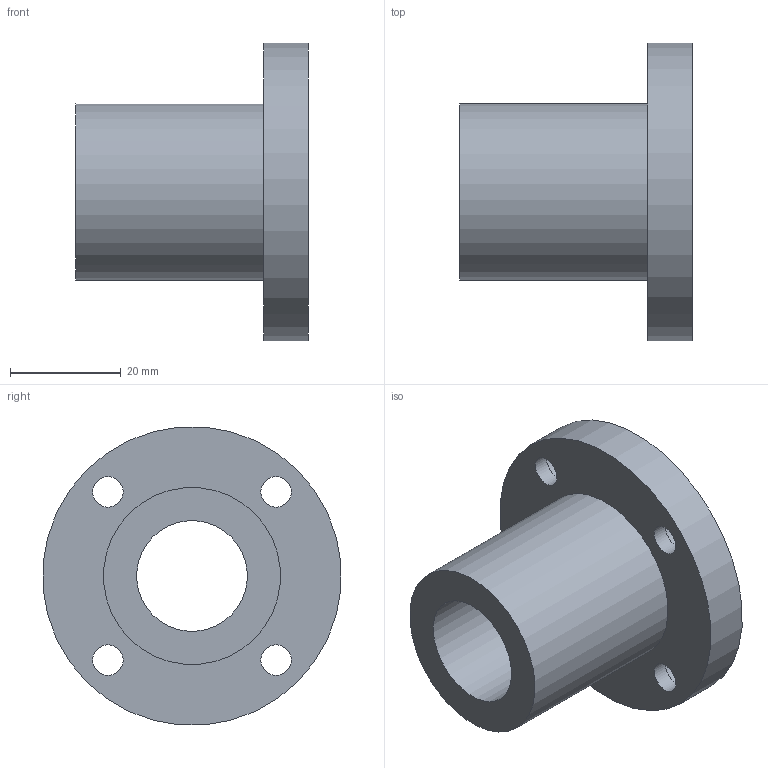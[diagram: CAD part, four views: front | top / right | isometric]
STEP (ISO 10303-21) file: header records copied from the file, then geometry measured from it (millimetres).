
FILE_DESCRIPTION(/* description */ (''),/* implementation_level */ '2;1');
FILE_NAME(/* name */ 'LMF20UU',/* time_stamp */ '2019-07-03T09:08:14+02:00',/* author */ ('VĂ©gh MĂˇtĂ©'),/* organization */ ('Bearing Kft'),/* preprocessor_version */ 'ST-DEVELOPER v16.7',/* originating_system */ 'DEX',/* authorisation */ $);
FILE_SCHEMA (('AUTOMOTIVE_DESIGN {1 0 10303 214 3 1 1}'));
Length unit declared in the file: millimetre
Products named in the file (1): LMF20UU
Bounding box: 42 x 53.79 x 53.79 mm (x, y, z)
Volume: 30894.7 mm3; surface area: 11975.4 mm2
Topology: 1 solids, 1 shells, 315 faces, 786 edges, 524 vertices
Faces by surface type: plane 243, bspline 59, cylinder 13
Full cylindrical faces by diameter (mm): 5.5 x4, 9 x4, 20 x1, 32 x1, 54 x1
Entity records: 12214 total; most frequent: CARTESIAN_POINT 5053, ORIENTED_EDGE 1544, DIRECTION 1194, EDGE_CURVE 772, LINE 628, VECTOR 628, VERTEX_POINT 524, EDGE_LOOP 390
